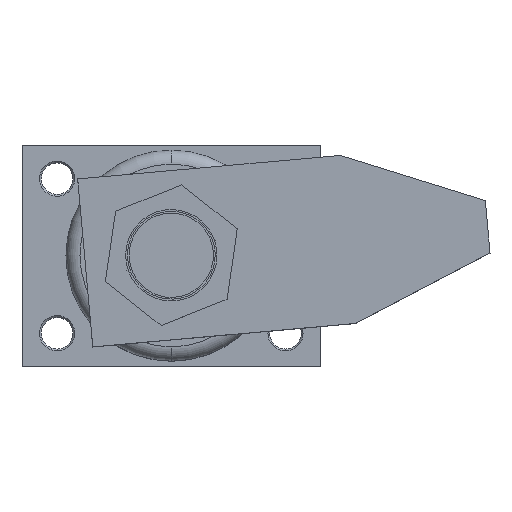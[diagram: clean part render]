
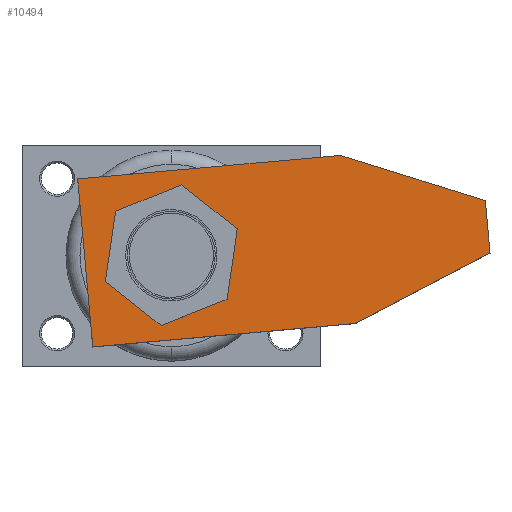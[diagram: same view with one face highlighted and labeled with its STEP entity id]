
A CAD part, top view. The second image highlights one B-rep face of the part: STEP entity #10494.
In plain terms, the highlighted planar face has unit normal (0, 0, 1).
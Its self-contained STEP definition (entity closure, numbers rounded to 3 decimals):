
#16 = VECTOR ( 'NONE', #4279, 1000. ) ;
#263 = EDGE_CURVE ( 'NONE', #9234, #9714, #11414, .T. ) ;
#351 = CARTESIAN_POINT ( 'NONE',  ( 0., 115., 23. ) ) ;
#397 = ORIENTED_EDGE ( 'NONE', *, *, #263, .F. ) ;
#787 = DIRECTION ( 'NONE',  ( 0., 0., 1. ) ) ;
#816 = EDGE_CURVE ( 'NONE', #6072, #4860, #7639, .T. ) ;
#867 = CIRCLE ( 'NONE', #3229, 17. ) ;
#986 = LINE ( 'NONE', #1409, #5986 ) ;
#1073 = ORIENTED_EDGE ( 'NONE', *, *, #11846, .T. ) ;
#1294 = CARTESIAN_POINT ( 'NONE',  ( 31.5, 0., 23. ) ) ;
#1409 = CARTESIAN_POINT ( 'NONE',  ( 31.5, 0., 23. ) ) ;
#1804 = PLANE ( 'NONE',  #7257 ) ;
#2282 = LINE ( 'NONE', #8897, #4624 ) ;
#2381 = CARTESIAN_POINT ( 'NONE',  ( 0., 115., 23. ) ) ;
#2568 = AXIS2_PLACEMENT_3D ( 'NONE', #5008, #11958, #5993 ) ;
#2570 = FACE_OUTER_BOUND ( 'NONE', #8381, .T. ) ;
#2846 = CARTESIAN_POINT ( 'NONE',  ( 16.5, 0., 23. ) ) ;
#2915 = CARTESIAN_POINT ( 'NONE',  ( 48., 115., 23. ) ) ;
#2977 = CARTESIAN_POINT ( 'NONE',  ( 0., 40., 23. ) ) ;
#3229 = AXIS2_PLACEMENT_3D ( 'NONE', #6764, #787, #7767 ) ;
#3792 = DIRECTION ( 'NONE',  ( 0.381, -0.924, 0. ) ) ;
#3854 = EDGE_LOOP ( 'NONE', ( #397, #7217 ) ) ;
#3983 = EDGE_CURVE ( 'NONE', #4047, #9361, #4800, .T. ) ;
#4004 = EDGE_CURVE ( 'NONE', #4860, #4047, #2282, .T. ) ;
#4007 = CARTESIAN_POINT ( 'NONE',  ( 31.5, 0., 23. ) ) ;
#4047 = VERTEX_POINT ( 'NONE', #2977 ) ;
#4155 = ORIENTED_EDGE ( 'NONE', *, *, #8669, .T. ) ;
#4279 = DIRECTION ( 'NONE',  ( -1., 0., 0. ) ) ;
#4377 = CARTESIAN_POINT ( 'NONE',  ( 48., 40., 23. ) ) ;
#4380 = CARTESIAN_POINT ( 'NONE',  ( 7., 90.4, 23. ) ) ;
#4415 = ORIENTED_EDGE ( 'NONE', *, *, #3983, .T. ) ;
#4624 = VECTOR ( 'NONE', #6902, 1000. ) ;
#4718 = LINE ( 'NONE', #12438, #9716 ) ;
#4800 = LINE ( 'NONE', #2846, #5893 ) ;
#4860 = VERTEX_POINT ( 'NONE', #351 ) ;
#5008 = CARTESIAN_POINT ( 'NONE',  ( 24., 90.4, 23. ) ) ;
#5851 = DIRECTION ( 'NONE',  ( -1., 0., 0. ) ) ;
#5893 = VECTOR ( 'NONE', #3792, 1000. ) ;
#5986 = VECTOR ( 'NONE', #8392, 1000. ) ;
#5993 = DIRECTION ( 'NONE',  ( 1., 0., 0. ) ) ;
#6072 = VERTEX_POINT ( 'NONE', #2915 ) ;
#6409 = VERTEX_POINT ( 'NONE', #4377 ) ;
#6437 = EDGE_CURVE ( 'NONE', #6409, #6072, #4718, .T. ) ;
#6469 = DIRECTION ( 'NONE',  ( 0., 1., 0. ) ) ;
#6764 = CARTESIAN_POINT ( 'NONE',  ( 24., 90.4, 23. ) ) ;
#6902 = DIRECTION ( 'NONE',  ( 0., -1., 0. ) ) ;
#7217 = ORIENTED_EDGE ( 'NONE', *, *, #10451, .F. ) ;
#7257 = AXIS2_PLACEMENT_3D ( 'NONE', #9817, #11814, #5851 ) ;
#7321 = VECTOR ( 'NONE', #10313, 1000. ) ;
#7569 = CARTESIAN_POINT ( 'NONE',  ( 16.5, 0., 23. ) ) ;
#7626 = LINE ( 'NONE', #1294, #7321 ) ;
#7639 = LINE ( 'NONE', #2381, #16 ) ;
#7767 = DIRECTION ( 'NONE',  ( 1., 0., 0. ) ) ;
#8204 = FACE_BOUND ( 'NONE', #3854, .T. ) ;
#8381 = EDGE_LOOP ( 'NONE', ( #9869, #10598, #12877, #4415, #4155, #1073 ) ) ;
#8392 = DIRECTION ( 'NONE',  ( 0.381, 0.924, 0. ) ) ;
#8669 = EDGE_CURVE ( 'NONE', #9361, #10613, #7626, .T. ) ;
#8897 = CARTESIAN_POINT ( 'NONE',  ( 0., 40., 23. ) ) ;
#9234 = VERTEX_POINT ( 'NONE', #10381 ) ;
#9361 = VERTEX_POINT ( 'NONE', #7569 ) ;
#9714 = VERTEX_POINT ( 'NONE', #4380 ) ;
#9716 = VECTOR ( 'NONE', #6469, 1000. ) ;
#9817 = CARTESIAN_POINT ( 'NONE',  ( 0., 0., 23. ) ) ;
#9869 = ORIENTED_EDGE ( 'NONE', *, *, #6437, .T. ) ;
#10313 = DIRECTION ( 'NONE',  ( 1., 0., 0. ) ) ;
#10381 = CARTESIAN_POINT ( 'NONE',  ( 41., 90.4, 23. ) ) ;
#10451 = EDGE_CURVE ( 'NONE', #9714, #9234, #867, .T. ) ;
#10494 = ADVANCED_FACE ( 'NONE', ( #8204, #2570 ), #1804, .F. ) ;
#10598 = ORIENTED_EDGE ( 'NONE', *, *, #816, .T. ) ;
#10613 = VERTEX_POINT ( 'NONE', #4007 ) ;
#11414 = CIRCLE ( 'NONE', #2568, 17. ) ;
#11814 = DIRECTION ( 'NONE',  ( 0., 0., -1. ) ) ;
#11846 = EDGE_CURVE ( 'NONE', #10613, #6409, #986, .T. ) ;
#11958 = DIRECTION ( 'NONE',  ( 0., 0., 1. ) ) ;
#12438 = CARTESIAN_POINT ( 'NONE',  ( 48., 40., 23. ) ) ;
#12877 = ORIENTED_EDGE ( 'NONE', *, *, #4004, .T. ) ;
